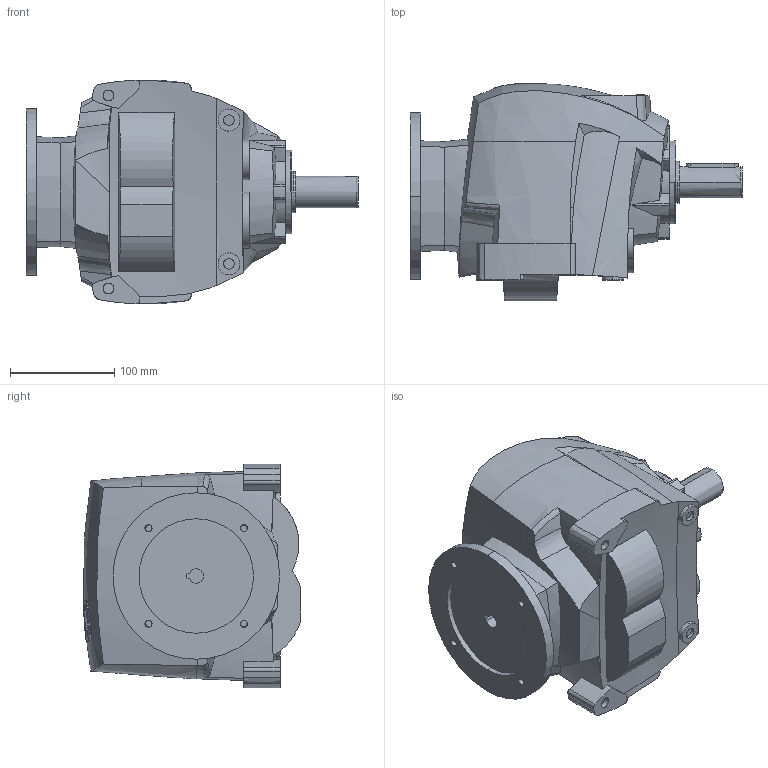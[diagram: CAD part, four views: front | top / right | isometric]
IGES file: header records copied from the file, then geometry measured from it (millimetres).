
Start section:  PTC IGES file: r30_unv_pam71.igs
Global section: file name: r30_unv_pam71.igs; native system: Pro/ENGINEER by Parametric Technology Corporation; preprocessor: 2008230; author: Luca; organization: Unknown; date: 20131119.171837; units: millimetre
Bounding box: 319 x 209.27 x 215.22 mm (x, y, z)
Volume: 6291696.6 mm3; surface area: 247871.9 mm2
Topology: 1 solids, 1 shells, 388 faces, 1074 edges, 720 vertices
Faces by surface type: bspline 221, revolution 150, extrusion 17
